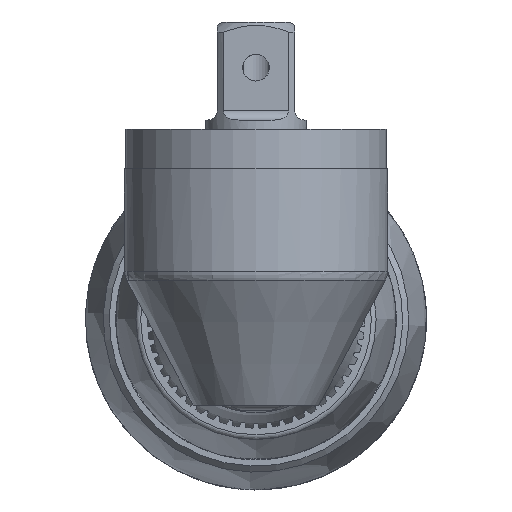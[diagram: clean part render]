
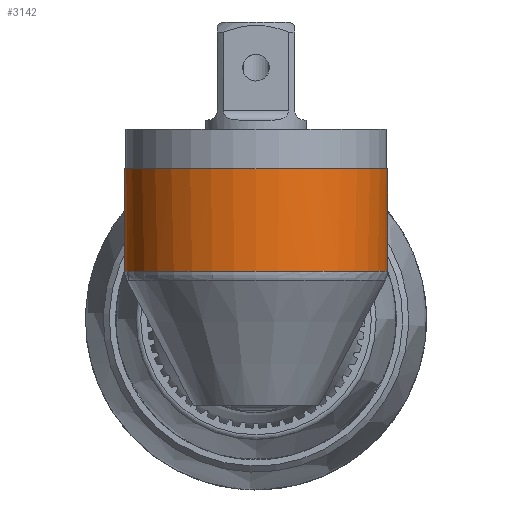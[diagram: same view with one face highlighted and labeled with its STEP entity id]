
A CAD part, left-side view. The second image highlights one B-rep face of the part: STEP entity #3142.
In plain terms, the highlighted cylindrical face has radius 21.565 mm (diameter 43.129 mm), a full revolution.
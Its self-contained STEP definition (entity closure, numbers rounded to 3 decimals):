
#652=CYLINDRICAL_SURFACE('',#12939,21.565);
#1360=B_SPLINE_CURVE_WITH_KNOTS('',3,(#38142,#38143,#38144,#38145,#38146,
#38147,#38148,#38149,#38150,#38151,#38152,#38153,#38154,#38155,#38156,#38157),
.UNSPECIFIED.,.F.,.F.,(4,2,2,2,2,2,2,4),(0.,0.125,0.25,0.375,0.5,
0.625,0.75,1.),.UNSPECIFIED.);
#3142=ADVANCED_FACE('',(#4394,#4395),#652,.T.);
#4394=FACE_BOUND('',#4849,.T.);
#4395=FACE_BOUND('',#4850,.T.);
#4849=EDGE_LOOP('',(#7067,#7068));
#4850=EDGE_LOOP('',(#7069));
#7067=ORIENTED_EDGE('',*,*,#11103,.T.);
#7068=ORIENTED_EDGE('',*,*,#11104,.T.);
#7069=ORIENTED_EDGE('',*,*,#11095,.F.);
#9661=VERTEX_POINT('',#38076);
#9666=VERTEX_POINT('',#38140);
#9667=VERTEX_POINT('',#38141);
#11095=EDGE_CURVE('',#9661,#9661,#12163,.T.);
#11103=EDGE_CURVE('',#9666,#9667,#12165,.T.);
#11104=EDGE_CURVE('',#9667,#9666,#1360,.T.);
#12163=CIRCLE('',#12930,21.565);
#12165=CIRCLE('',#12938,21.565);
#12930=AXIS2_PLACEMENT_3D('',#38075,#14595,#14596);
#12938=AXIS2_PLACEMENT_3D('',#38139,#14613,#14614);
#12939=AXIS2_PLACEMENT_3D('',#38158,#14615,#14616);
#14595=DIRECTION('',(0.,0.,1.));
#14596=DIRECTION('',(-1.,0.,0.));
#14613=DIRECTION('',(0.,0.,1.));
#14614=DIRECTION('',(1.,0.,0.));
#14615=DIRECTION('',(0.,0.,1.));
#14616=DIRECTION('',(-1.,0.,0.));
#38075=CARTESIAN_POINT('',(-169.204,0.,24.638));
#38076=CARTESIAN_POINT('',(-190.769,0.,24.638));
#38139=CARTESIAN_POINT('',(-169.204,0.,7.905));
#38140=CARTESIAN_POINT('',(-153.828,15.119,7.905));
#38141=CARTESIAN_POINT('',(-153.828,-15.119,7.905));
#38142=CARTESIAN_POINT('',(-153.828,-15.119,7.905));
#38143=CARTESIAN_POINT('',(-153.298,-14.58,9.631));
#38144=CARTESIAN_POINT('',(-152.664,-13.88,11.236));
#38145=CARTESIAN_POINT('',(-151.336,-12.123,14.242));
#38146=CARTESIAN_POINT('',(-150.634,-11.053,15.651));
#38147=CARTESIAN_POINT('',(-149.354,-8.543,18.093));
#38148=CARTESIAN_POINT('',(-148.758,-7.065,19.158));
#38149=CARTESIAN_POINT('',(-147.9,-3.752,20.666));
#38150=CARTESIAN_POINT('',(-147.642,-1.901,21.104));
#38151=CARTESIAN_POINT('',(-147.638,1.861,21.11));
#38152=CARTESIAN_POINT('',(-147.897,3.737,20.671));
#38153=CARTESIAN_POINT('',(-148.755,7.056,19.164));
#38154=CARTESIAN_POINT('',(-149.35,8.533,18.101));
#38155=CARTESIAN_POINT('',(-151.27,12.302,14.438));
#38156=CARTESIAN_POINT('',(-152.768,14.042,11.359));
#38157=CARTESIAN_POINT('',(-153.828,15.119,7.905));
#38158=CARTESIAN_POINT('',(-169.204,0.,-3.175));
